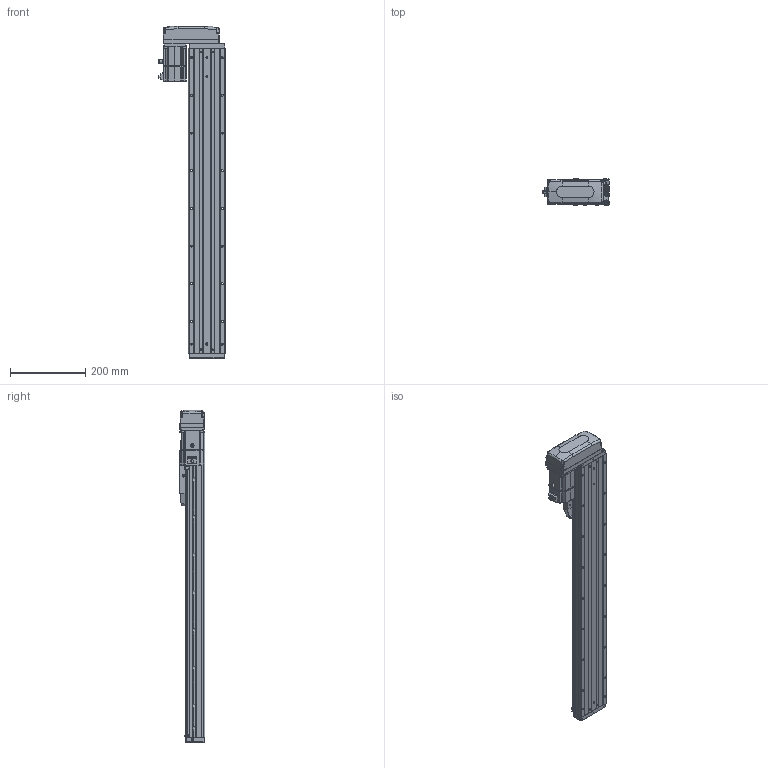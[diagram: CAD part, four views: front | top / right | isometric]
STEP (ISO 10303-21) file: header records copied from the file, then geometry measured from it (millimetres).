
FILE_DESCRIPTION (( 'STEP AP203' ), '1' );
FILE_NAME ('CTHA100-600-BL-M20-C4L.step', '2022-07-06T09:09:23', ( '微软用户' ), ( '微软中国' ), 'SwSTEP 2.0', 'SolidWorks 2020', '' );
FILE_SCHEMA (( 'CONFIG_CONTROL_DESIGN' ));
Length unit declared in the file: millimetre
Products named in the file (19): KTHA100-004; GBT 70.1-M3℅6; GBT 70.3-M3℅6; KTHA100-005; GBT70.1 M5℅16; CTHA86-015-1_CTHA86-015-2; GB¨uT 70.2-M3¡Á5_M3¡Á6; CTHA60-016; CTHA86-033; EE_SX911P_R; _X2_4E0983F1_X0_200W_1; CTHA100-600-BL-M20-C4L; CTHA60-017; CTHA100-002; CTHA60-021; CTHA100-031; KTHA100-001_810; GBT77-2000 M3×3; CTHA86-030
Assembly tree (64 placements, depth 2):
  CTHA100-600-BL-M20-C4L
    KTHA100-001_810
    KTHA100-004
    KTHA100-005
    GB¨uT 70.2-M3¡Á5_M3¡Á6  x10
    EE_SX911P_R  x3
    CTHA60-017  x3
    CTHA60-021  x2
    GBT77-2000 M3×3  x6
    GBT 70.1-M3℅6  x10
    GBT70.1 M5℅16  x14
    CTHA60-016  x2
    _X2_4E0983F1_X0_200W_1
    CTHA100-002
    CTHA100-031
    CTHA86-030  x2
    GBT 70.3-M3℅6  x4
    CTHA86-015-1_CTHA86-015-2
    CTHA86-033
Bounding box: 178.52 x 68 x 881 mm (x, y, z)
Volume: 3747438.7 mm3; surface area: 636017.1 mm2
Topology: 66 solids, 66 shells, 2689 faces, 6471 edges, 4012 vertices
Faces by surface type: plane 1404, cylinder 707, cone 355, torus 124, bspline 75, sphere 24
Entity records: 46638 total; most frequent: CARTESIAN_POINT 9147, DIRECTION 7204, ORIENTED_EDGE 7058, EDGE_CURVE 3529, AXIS2_PLACEMENT_3D 2441, LINE 2322, VECTOR 2322, VERTEX_POINT 2232
